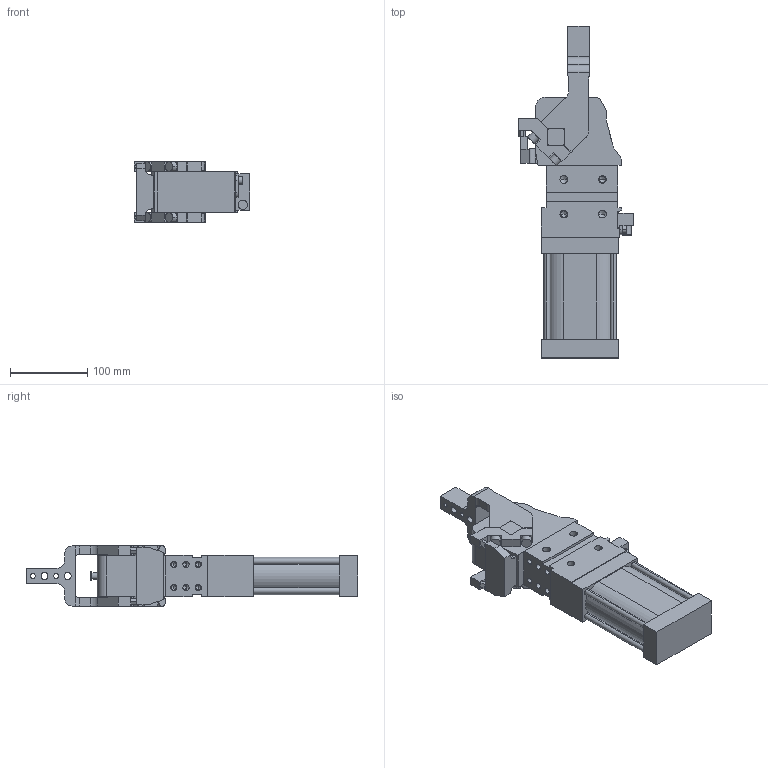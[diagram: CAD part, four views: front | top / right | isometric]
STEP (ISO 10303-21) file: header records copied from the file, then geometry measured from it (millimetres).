
FILE_DESCRIPTION (( 'STEP AP214' ), '1' );
FILE_NAME ('cpl63th1csi1g_75.STEP', '2023-01-26T10:39:07', ( '' ), ( '' ), 'SwSTEP 2.0', 'SolidWorks 2022', '' );
FILE_SCHEMA (( 'AUTOMOTIVE_DESIGN' ));
Length unit declared in the file: millimetre
Products named in the file (4): leva_h1cs_cpl63t; cpl63th1csi1g_75; meccanica_cpl_63_tassello_esterno; blocchetto_VEP_0
Assembly tree (3 placements, depth 2):
  cpl63th1csi1g_75
    meccanica_cpl_63_tassello_esterno
    blocchetto_VEP_0
    leva_h1cs_cpl63t
Bounding box: 149.5 x 430.5 x 79 mm (x, y, z)
Volume: 1821885.9 mm3; surface area: 197712.2 mm2
Topology: 3 solids, 3 shells, 433 faces, 1142 edges, 709 vertices
Faces by surface type: plane 229, cylinder 154, cone 50
Entity records: 14638 total; most frequent: CARTESIAN_POINT 2328, DIRECTION 2310, ORIENTED_EDGE 2192, EDGE_CURVE 1096, AXIS2_PLACEMENT_3D 781, VECTOR 748, LINE 748, VERTEX_POINT 709
